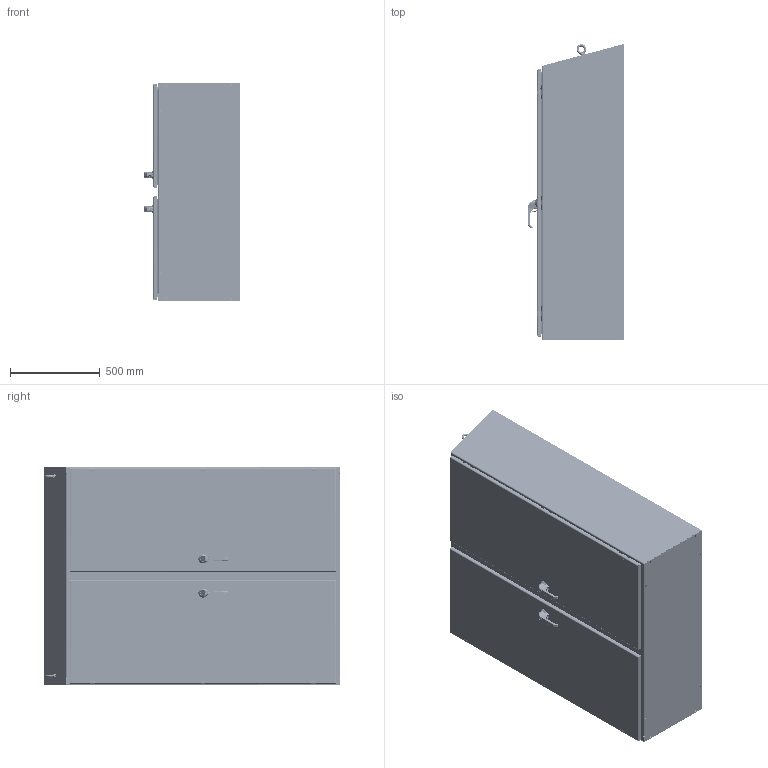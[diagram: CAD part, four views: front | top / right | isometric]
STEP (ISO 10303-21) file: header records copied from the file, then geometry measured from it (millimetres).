
FILE_DESCRIPTION((''),'2;1');
FILE_NAME('MODEL-150_ASM','2021-06-28T10:40:27',('johnh'),('SAGINAW CONTROL & ENGINEERING'),'CREO PARAMETRIC BY PTC INC, 2017260','CREO PARAMETRIC BY PTC INC, 2017260','');
FILE_SCHEMA(('AUTOMOTIVE_DESIGN { 1 0 10303 214 1 1 1 1 }'));
Length unit declared in the file: inch
Products named in the file (77): MODEL-150-BTM; MODEL-150-RS; MODEL-150-LS; MODEL-150-BCK; MODEL-150-TP; MODEL-150-RH-DR; 100837; 111267; 100882; 126937_HANDLE; 126937_HANDLE_INSERT; 126937_SHAFT_CAM; 126937_ADAPTER_CAM; 126937_NUT_CAM; 126937_BASE; 126937_PADLOCK_CATCH; 126937_SCREW_SMALL; 126937_NUT_MOUNTING_SMALL; 126937_NUT_MOUNTING_LARGE; 126937_ASM; 102236; 100030; 102236_ASM; MODEL-150-ROD-UPR-RH; 128146; 128145; 128144; 102482; MODEL-150-ROD-UPR-RH_ASM; 128143; 112504; MODEL-150-ROD-LWR-RH; MODEL-150-ROD-LWR-RH_ASM; MODEL-150-PR-GSKT-RH; 128258; 126397; 128258_ASM; 126395; 102483; 101383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
Assembly tree (188 placements, depth 4):
  MODEL-150_ASM
    MODEL-150-BTM
    MODEL-150-RS
    MODEL-150-LS
    MODEL-150-BCK
    MODEL-150-TP
    MODEL-150-RH-DOOR-ASSY_ASM
      MODEL-150-RH-DR
      100837  x5
      111267
      100882  x10
      126937_ASM
        126937_HANDLE
        126937_HANDLE_INSERT
        126937_SHAFT_CAM
        126937_ADAPTER_CAM
        126937_NUT_CAM
        126937_BASE
        126937_PADLOCK_CATCH
        126937_SCREW_SMALL
        126937_NUT_MOUNTING_SMALL
        126937_NUT_MOUNTING_LARGE
      102236_ASM
        102236
        100030  x2
      MODEL-150-ROD-UPR-RH_ASM
        MODEL-150-ROD-UPR-RH
        128146
        128145
        128144
        102482  x2
      128143  x2
      112504  x2
      MODEL-150-ROD-LWR-RH_ASM
        MODEL-150-ROD-LWR-RH
        128146
        128145
        128144
        102482  x2
      MODEL-150-PR-GSKT-RH
      128258_ASM  x3
        128258
        126397
      126395  x3
      102483  x3
      101383_ASM  x3
        101383
        101383-STUD
      101221  x3
    MODEL-150-LH-DOOR-ASSY_ASM
      MODEL-150-LH-DR
      100837  x3
      126937_ASM
        126937_HANDLE
        126937_HANDLE_INSERT
        126937_SHAFT_CAM
        126937_ADAPTER_CAM
        126937_NUT_CAM
        126937_BASE
        126937_PADLOCK_CATCH
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Bounding box: 534.57 x 1646.23 x 1219.2 mm (x, y, z)
Volume: 26926228.8 mm3; surface area: 19323652.5 mm2
Topology: 211 solids, 211 shells, 17408 faces, 44897 edges, 27913 vertices
Faces by surface type: plane 6153, cylinder 4580, bspline 3889, cone 1160, torus 1122, sphere 504
Entity records: 281025 total; most frequent: CARTESIAN_POINT 90770, ORIENTED_EDGE 26952, DIRECTION 25264, PRESENTATION_STYLE_ASSIGNMENT 14235, STYLED_ITEM 13867, EDGE_CURVE 13476, CURVE_STYLE 13464, AXIS2_PLACEMENT_3D 9322
